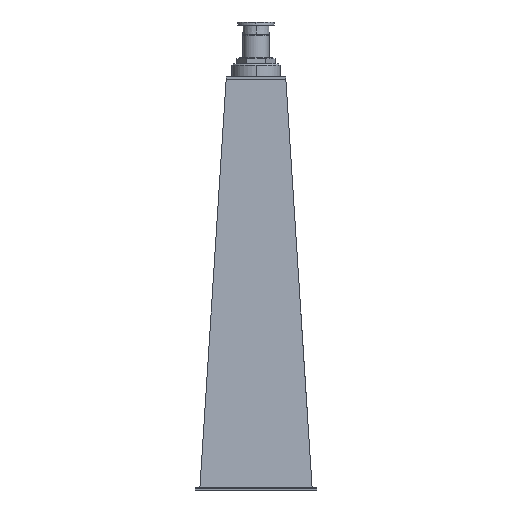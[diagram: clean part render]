
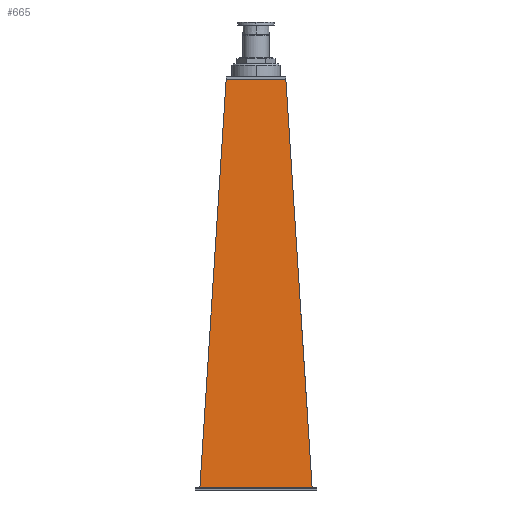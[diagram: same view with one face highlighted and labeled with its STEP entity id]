
A CAD part, left-side view. The second image highlights one B-rep face of the part: STEP entity #665.
In plain terms, the highlighted planar face has unit normal (-0.998, 0, 0.064).
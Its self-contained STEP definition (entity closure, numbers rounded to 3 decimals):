
#665=ADVANCED_FACE('',(#1344),#1345,.F.);
#1344=FACE_OUTER_BOUND('',#2077,.T.);
#1345=PLANE('',#2078);
#2077=EDGE_LOOP('',(#4075,#4076,#4077,#4078));
#2078=AXIS2_PLACEMENT_3D('',#4079,#4080,#4081);
#4075=ORIENTED_EDGE('',*,*,#4972,.T.);
#4076=ORIENTED_EDGE('',*,*,#4730,.F.);
#4077=ORIENTED_EDGE('',*,*,#4992,.F.);
#4078=ORIENTED_EDGE('',*,*,#4988,.T.);
#4079=CARTESIAN_POINT('',(59.705,116.013,935.193));
#4080=DIRECTION('',(0.998,0.,-0.064));
#4081=DIRECTION('',(0.,-1.0,0.));
#4730=EDGE_CURVE('',#5710,#5705,#5712,.T.);
#4972=EDGE_CURVE('',#6030,#5705,#6031,.T.);
#4988=EDGE_CURVE('',#6052,#6030,#6053,.T.);
#4992=EDGE_CURVE('',#6052,#5710,#6058,.T.);
#5705=VERTEX_POINT('',#7386);
#5710=VERTEX_POINT('',#7393);
#5712=LINE('',#7396,#7397);
#6030=VERTEX_POINT('',#7974);
#6031=LINE('',#7975,#7976);
#6052=VERTEX_POINT('',#8007);
#6053=LINE('',#8008,#8009);
#6058=LINE('',#8016,#8017);
#7386=CARTESIAN_POINT('',(-0.115,53.2,6.));
#7393=CARTESIAN_POINT('',(59.692,113.006,935.));
#7396=CARTESIAN_POINT('',(59.984,113.298,939.534));
#7397=VECTOR('',#8521,1.);
#7974=CARTESIAN_POINT('',(-0.115,308.826,6.));
#7975=CARTESIAN_POINT('',(-0.115,148.513,6.));
#7976=VECTOR('',#8693,1.0);
#8007=CARTESIAN_POINT('',(59.692,249.019,935.));
#8008=CARTESIAN_POINT('',(59.984,248.727,939.534));
#8009=VECTOR('',#8704,1.);
#8016=CARTESIAN_POINT('',(59.692,148.513,935.));
#8017=VECTOR('',#8707,1.0);
#8521=DIRECTION('',(-0.064,-0.064,-0.996));
#8693=DIRECTION('',(0.,-1.0,0.));
#8704=DIRECTION('',(-0.064,0.064,-0.996));
#8707=DIRECTION('',(0.,-1.0,0.));
